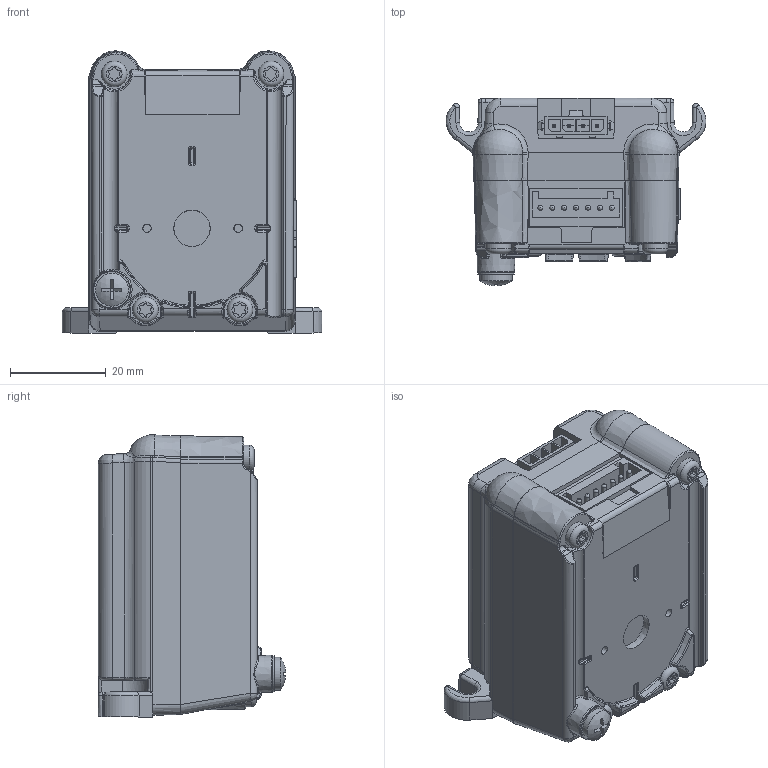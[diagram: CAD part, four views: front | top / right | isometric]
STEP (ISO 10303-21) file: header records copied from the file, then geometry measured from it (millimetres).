
FILE_DESCRIPTION((' IMS0275B_webmodel.stp'),'1');
FILE_NAME('C:/Temp/New, IMS0275B_webmodel.stp', '2016-09-26T13:42:38',('P. Bordua, 09/26/16'), ('Kubotek USA, Inc.'), 'KCM Version 1.1.1406.0', 'Kubotek KeyCreator', 'KC');
FILE_SCHEMA(('AUTOMOTIVE_DESIGN'));
Length unit declared in the file: inch
Bounding box: 54.35 x 39.21 x 59.05 mm (x, y, z)
Volume: 72642.9 mm3; surface area: 12977.5 mm2
Topology: 1 solids, 8 shells, 794 faces, 1945 edges, 1181 vertices
Faces by surface type: plane 322, cylinder 197, bspline 172, torus 37, cone 37, sphere 29
Full cylindrical faces by diameter (mm): 1.041 x7, 5.385 x4, 6.858 x1, 7.315 x1, 7.62 x1
Entity records: 47626 total; most frequent: CARTESIAN_POINT 28680, ORIENTED_EDGE 3864, DIRECTION 3646, EDGE_CURVE 1932, AXIS2_PLACEMENT_3D 1357, VERTEX_POINT 1181, VECTOR 932, LINE 932
